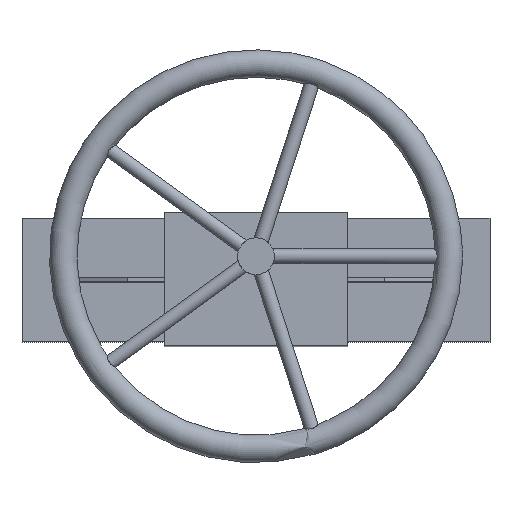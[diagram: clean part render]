
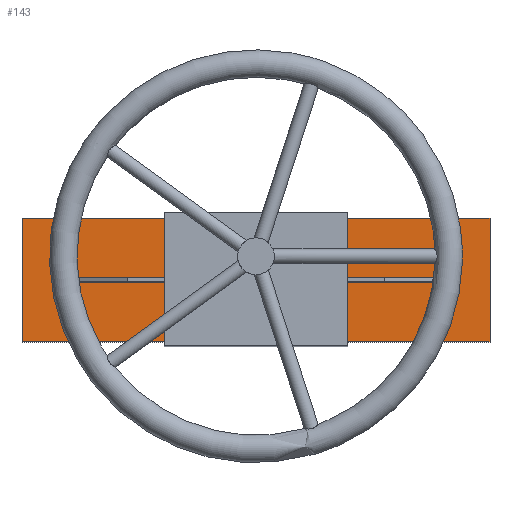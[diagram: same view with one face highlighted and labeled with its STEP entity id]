
A CAD part, top view. The second image highlights one B-rep face of the part: STEP entity #143.
In plain terms, the highlighted planar face has unit normal (0, 0, 1).
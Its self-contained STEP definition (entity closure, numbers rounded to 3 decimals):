
#143=ADVANCED_FACE('',(#1562,#1564,#1566),#1568,.T.);
#1562=FACE_BOUND('',#1563,.T.);
#1563=EDGE_LOOP('',(#2797,#2798,#2799,#2800,#2801,#2802,#2803,#2804));
#1564=FACE_BOUND('',#1565,.T.);
#1565=EDGE_LOOP('',(#2805,#2806,#2807,#2808));
#1566=FACE_BOUND('',#1567,.T.);
#1567=EDGE_LOOP('',(#2809));
#1568=PLANE('',#1569);
#1569=AXIS2_PLACEMENT_3D('',#1570,#1571,#1572);
#1570=CARTESIAN_POINT('',(0.,0.,450.));
#1571=DIRECTION('',(0.,0.,1.));
#1572=DIRECTION('',(1.,0.,0.));
#2797=ORIENTED_EDGE('',*,*,#3499,.F.);
#2798=ORIENTED_EDGE('',*,*,#3500,.T.);
#2799=ORIENTED_EDGE('',*,*,#3501,.T.);
#2800=ORIENTED_EDGE('',*,*,#3502,.T.);
#2801=ORIENTED_EDGE('',*,*,#3503,.F.);
#2802=ORIENTED_EDGE('',*,*,#3504,.T.);
#2803=ORIENTED_EDGE('',*,*,#3505,.T.);
#2804=ORIENTED_EDGE('',*,*,#3506,.T.);
#2805=ORIENTED_EDGE('',*,*,#3507,.F.);
#2806=ORIENTED_EDGE('',*,*,#3489,.F.);
#2807=ORIENTED_EDGE('',*,*,#3508,.F.);
#2808=ORIENTED_EDGE('',*,*,#3465,.F.);
#2809=ORIENTED_EDGE('',*,*,#3482,.F.);
#3465=EDGE_CURVE('',#3826,#3828,#3829,.T.);
#3482=EDGE_CURVE('',#3859,#3859,#3860,.F.);
#3489=EDGE_CURVE('',#3870,#3872,#3873,.F.);
#3499=EDGE_CURVE('',#3887,#3888,#3889,.T.);
#3500=EDGE_CURVE('',#3887,#3890,#3891,.T.);
#3501=EDGE_CURVE('',#3890,#3892,#3893,.T.);
#3502=EDGE_CURVE('',#3892,#3894,#3895,.T.);
#3503=EDGE_CURVE('',#3896,#3894,#3897,.T.);
#3504=EDGE_CURVE('',#3896,#3898,#3899,.T.);
#3505=EDGE_CURVE('',#3898,#3900,#3901,.T.);
#3506=EDGE_CURVE('',#3900,#3888,#3902,.T.);
#3507=EDGE_CURVE('',#3872,#3826,#3903,.T.);
#3508=EDGE_CURVE('',#3828,#3870,#3904,.T.);
#3826=VERTEX_POINT('',#4448);
#3828=VERTEX_POINT('',#4452);
#3829=LINE('',#4453,#4454);
#3859=VERTEX_POINT('',#4520);
#3860=CIRCLE('',#4521,20.);
#3870=VERTEX_POINT('',#4544);
#3872=VERTEX_POINT('',#4548);
#3873=LINE('',#4549,#4550);
#3887=VERTEX_POINT('',#4583);
#3888=VERTEX_POINT('',#4584);
#3889=LINE('',#4585,#4586);
#3890=VERTEX_POINT('',#4588);
#3891=LINE('',#4589,#4590);
#3892=VERTEX_POINT('',#4592);
#3893=LINE('',#4593,#4594);
#3894=VERTEX_POINT('',#4596);
#3895=LINE('',#4597,#4598);
#3896=VERTEX_POINT('',#4600);
#3897=LINE('',#4601,#4602);
#3898=VERTEX_POINT('',#4604);
#3899=LINE('',#4605,#4606);
#3900=VERTEX_POINT('',#4608);
#3901=LINE('',#4609,#4610);
#3902=LINE('',#4612,#4613);
#3903=LINE('',#4615,#4616);
#3904=LINE('',#4618,#4619);
#4448=CARTESIAN_POINT('',(-210.,-2.5,450.));
#4452=CARTESIAN_POINT('',(210.,-2.5,450.));
#4453=CARTESIAN_POINT('',(-210.,-2.5,450.));
#4454=VECTOR('',#4455,1.);
#4455=DIRECTION('',(1.,0.,0.));
#4520=CARTESIAN_POINT('',(0.,45.,450.));
#4521=AXIS2_PLACEMENT_3D('',#4522,#4523,#4524);
#4522=CARTESIAN_POINT('',(0.,25.,450.));
#4523=DIRECTION('',(0.,0.,-1.));
#4524=DIRECTION('',(0.,1.,0.));
#4544=CARTESIAN_POINT('',(210.,2.5,450.));
#4548=CARTESIAN_POINT('',(-210.,2.5,450.));
#4549=CARTESIAN_POINT('',(-210.,2.5,450.));
#4550=VECTOR('',#4551,1.);
#4551=DIRECTION('',(1.,0.,0.));
#4583=CARTESIAN_POINT('',(100.,-67.5,450.));
#4584=CARTESIAN_POINT('',(-100.,-67.5,450.));
#4585=CARTESIAN_POINT('',(100.,-67.5,450.));
#4586=VECTOR('',#4587,1.);
#4587=DIRECTION('',(-1.,0.,0.));
#4588=CARTESIAN_POINT('',(255.,-67.5,450.));
#4589=CARTESIAN_POINT('',(100.,-67.5,450.));
#4590=VECTOR('',#4591,1.);
#4591=DIRECTION('',(1.,0.,0.));
#4592=CARTESIAN_POINT('',(255.,67.5,450.));
#4593=CARTESIAN_POINT('',(255.,-67.5,450.));
#4594=VECTOR('',#4595,1.);
#4595=DIRECTION('',(0.,1.,0.));
#4596=CARTESIAN_POINT('',(100.,67.5,450.));
#4597=CARTESIAN_POINT('',(255.,67.5,450.));
#4598=VECTOR('',#4599,1.);
#4599=DIRECTION('',(-1.,0.,0.));
#4600=CARTESIAN_POINT('',(-100.,67.5,450.));
#4601=CARTESIAN_POINT('',(-100.,67.5,450.));
#4602=VECTOR('',#4603,1.);
#4603=DIRECTION('',(1.,0.,0.));
#4604=CARTESIAN_POINT('',(-255.,67.5,450.));
#4605=CARTESIAN_POINT('',(-100.,67.5,450.));
#4606=VECTOR('',#4607,1.);
#4607=DIRECTION('',(-1.,0.,0.));
#4608=CARTESIAN_POINT('',(-255.,-67.5,450.));
#4609=CARTESIAN_POINT('',(-255.,67.5,450.));
#4610=VECTOR('',#4611,1.);
#4611=DIRECTION('',(0.,-1.,0.));
#4612=CARTESIAN_POINT('',(-255.,-67.5,450.));
#4613=VECTOR('',#4614,1.);
#4614=DIRECTION('',(1.,0.,0.));
#4615=CARTESIAN_POINT('',(-210.,2.5,450.));
#4616=VECTOR('',#4617,1.);
#4617=DIRECTION('',(0.,-1.,0.));
#4618=CARTESIAN_POINT('',(210.,-2.5,450.));
#4619=VECTOR('',#4620,1.);
#4620=DIRECTION('',(0.,1.,0.));
